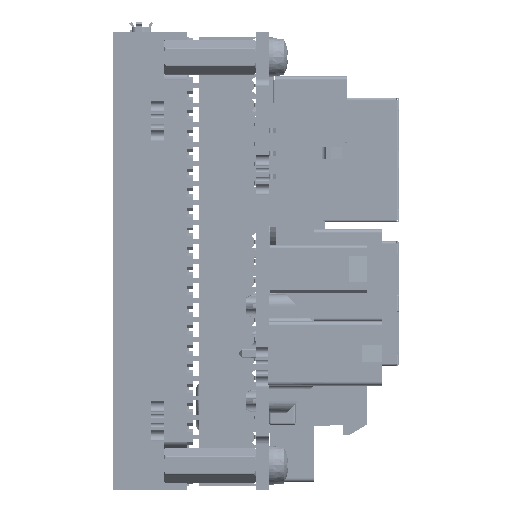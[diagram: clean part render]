
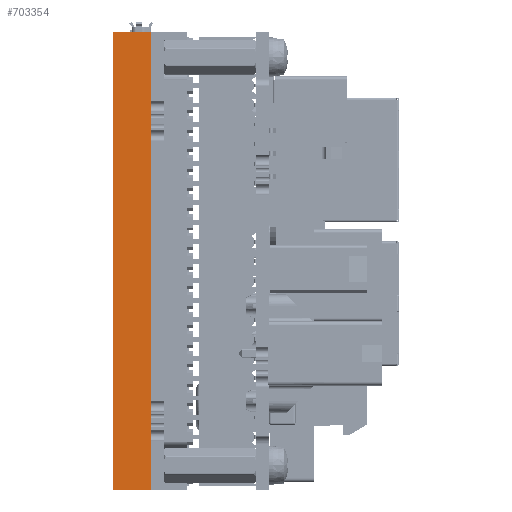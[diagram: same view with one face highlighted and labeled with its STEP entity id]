
A CAD part, left-side view. The second image highlights one B-rep face of the part: STEP entity #703354.
In plain terms, the highlighted planar face has unit normal (-1, 0, 0).
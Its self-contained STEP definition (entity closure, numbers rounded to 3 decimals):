
#701423=DIRECTION('',(0.,0.,1.));
#701424=VECTOR('',#701423,59.5);
#701425=CARTESIAN_POINT('',(-8.,0.,-59.5));
#701426=LINE('',#701425,#701424);
#701553=DIRECTION('',(0.,0.,1.));
#701554=VECTOR('',#701553,59.5);
#701555=CARTESIAN_POINT('',(-8.,5.,-59.5));
#701556=LINE('',#701555,#701554);
#701737=DIRECTION('',(0.,1.,0.));
#701738=VECTOR('',#701737,5.);
#701739=CARTESIAN_POINT('',(-8.,0.,0.));
#701740=LINE('',#701739,#701738);
#701794=DIRECTION('',(0.,1.,0.));
#701795=VECTOR('',#701794,5.);
#701796=CARTESIAN_POINT('',(-8.,0.,-59.5));
#701797=LINE('',#701796,#701795);
#702743=CARTESIAN_POINT('',(-8.,0.,-59.5));
#702745=VERTEX_POINT('',#702743);
#702746=CARTESIAN_POINT('',(-8.,0.,0.));
#702747=VERTEX_POINT('',#702746);
#702748=CARTESIAN_POINT('',(-8.,5.,0.));
#702750=VERTEX_POINT('',#702748);
#702754=CARTESIAN_POINT('',(-8.,5.,-59.5));
#702755=VERTEX_POINT('',#702754);
#703343=CARTESIAN_POINT('',(-8.,0.,-59.5));
#703344=DIRECTION('',(-1.,0.,0.));
#703345=DIRECTION('',(0.,0.,1.));
#703346=AXIS2_PLACEMENT_3D('',#703343,#703344,#703345);
#703347=PLANE('',#703346);
#703348=ORIENTED_EDGE('',*,*,#703021,.F.);
#703349=ORIENTED_EDGE('',*,*,#703326,.T.);
#703350=ORIENTED_EDGE('',*,*,#703163,.T.);
#703351=ORIENTED_EDGE('',*,*,#703247,.F.);
#703352=EDGE_LOOP('',(#703348,#703349,#703350,#703351));
#703353=FACE_OUTER_BOUND('',#703352,.F.);
#703354=ADVANCED_FACE('',(#703353),#703347,.T.);
#703021=EDGE_CURVE('',#702745,#702747,#701426,.T.);
#703163=EDGE_CURVE('',#702755,#702750,#701556,.T.);
#703247=EDGE_CURVE('',#702747,#702750,#701740,.T.);
#703326=EDGE_CURVE('',#702745,#702755,#701797,.T.);
